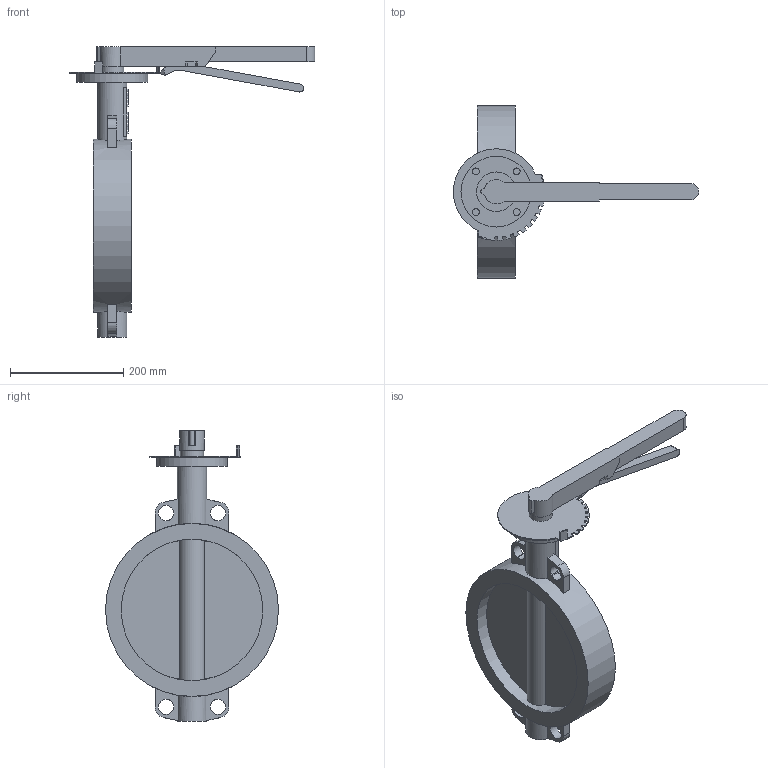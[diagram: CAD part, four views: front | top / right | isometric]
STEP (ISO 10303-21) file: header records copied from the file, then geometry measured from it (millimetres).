
FILE_DESCRIPTION(('STEP AP203'), '1');
FILE_NAME('Çàòâîð 017W.ZS DN250 PN10_16 ðóêîÿòêà', '', ('UNSPECIFIED'), ('UNSPECIFIED'), 'ASCON STEP Converter 1.6', 'ASCON Math Kernel', '');
FILE_SCHEMA(('CONFIG_CONTROL_DESIGN'));
Length unit declared in the file: millimetre
Bounding box: 433.97 x 306 x 514 mm (x, y, z)
Volume: 482185.4 mm3; surface area: 431407.2 mm2
Topology: 1 solids, 2 shells, 894 faces, 2663 edges, 1719 vertices
Faces by surface type: cylinder 654, plane 240
Full cylindrical faces by diameter (mm): 12 x4, 28.6 x1, 41 x1, 52 x2, 70 x1, 125 x1, 250.4 x2, 306 x1
Entity records: 38344 total; most frequent: CARTESIAN_POINT 5881, DIRECTION 5803, ORIENTED_EDGE 5224, EDGE_CURVE 2651, AXIS2_PLACEMENT_3D 2277, VERTEX_POINT 1719, CIRCLE 1382, LINE 1249
